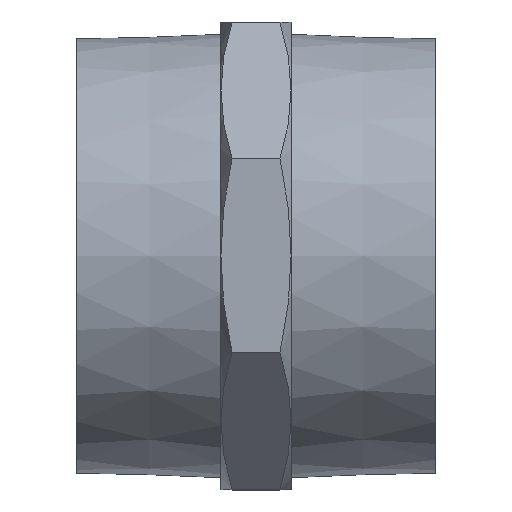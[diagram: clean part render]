
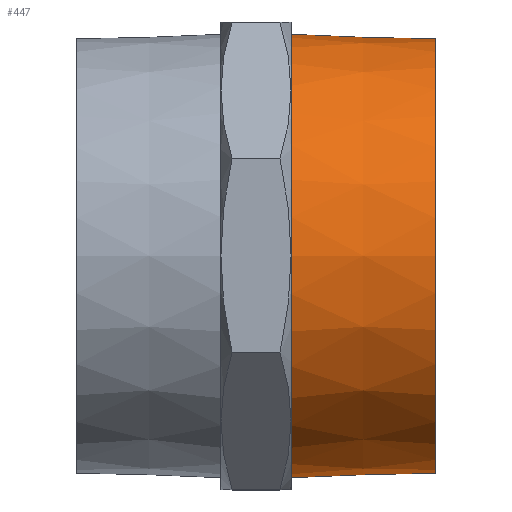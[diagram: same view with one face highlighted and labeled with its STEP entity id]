
A CAD part, top view. The second image highlights one B-rep face of the part: STEP entity #447.
In plain terms, the highlighted conical face has half-angle 1.79 degrees and reference radius 56.877 mm.
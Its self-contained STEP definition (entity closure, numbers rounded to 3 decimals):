
#47=CONICAL_SURFACE('',#502,56.878,0.031);
#83=FACE_OUTER_BOUND('',#115,.T.);
#115=EDGE_LOOP('',(#313,#314,#315,#316,#317,#318));
#148=LINE('',#694,#159);
#159=VECTOR('',#570,56.878);
#171=CIRCLE('',#500,55.721);
#172=CIRCLE('',#501,55.721);
#173=CIRCLE('',#503,56.878);
#174=CIRCLE('',#504,56.878);
#197=VERTEX_POINT('',#688);
#198=VERTEX_POINT('',#689);
#199=VERTEX_POINT('',#693);
#200=VERTEX_POINT('',#695);
#240=EDGE_CURVE('',#197,#198,#171,.T.);
#241=EDGE_CURVE('',#198,#197,#172,.T.);
#242=EDGE_CURVE('',#198,#199,#148,.T.);
#243=EDGE_CURVE('',#200,#199,#173,.T.);
#244=EDGE_CURVE('',#199,#200,#174,.T.);
#313=ORIENTED_EDGE('',*,*,#240,.F.);
#314=ORIENTED_EDGE('',*,*,#241,.F.);
#315=ORIENTED_EDGE('',*,*,#242,.T.);
#316=ORIENTED_EDGE('',*,*,#243,.F.);
#317=ORIENTED_EDGE('',*,*,#244,.F.);
#318=ORIENTED_EDGE('',*,*,#242,.F.);
#447=ADVANCED_FACE('',(#83),#47,.T.);
#500=AXIS2_PLACEMENT_3D('',#690,#564,#565);
#501=AXIS2_PLACEMENT_3D('',#691,#566,#567);
#502=AXIS2_PLACEMENT_3D('',#692,#568,#569);
#503=AXIS2_PLACEMENT_3D('',#696,#571,#572);
#504=AXIS2_PLACEMENT_3D('',#697,#573,#574);
#564=DIRECTION('center_axis',(1.,0.,0.));
#565=DIRECTION('ref_axis',(0.,0.,-1.));
#566=DIRECTION('center_axis',(1.,0.,0.));
#567=DIRECTION('ref_axis',(0.,0.,-1.));
#568=DIRECTION('center_axis',(-1.,0.,0.));
#569=DIRECTION('ref_axis',(0.,0.,-1.));
#570=DIRECTION('',(-1.,0.,0.031));
#571=DIRECTION('center_axis',(-1.,0.,0.));
#572=DIRECTION('ref_axis',(0.,0.,-1.));
#573=DIRECTION('center_axis',(-1.,0.,0.));
#574=DIRECTION('ref_axis',(0.,0.,-1.));
#688=CARTESIAN_POINT('',(46.,0.,-55.721));
#689=CARTESIAN_POINT('',(46.,0.,55.721));
#690=CARTESIAN_POINT('Origin',(46.,0.,0.));
#691=CARTESIAN_POINT('Origin',(46.,0.,0.));
#692=CARTESIAN_POINT('Origin',(9.,0.,0.));
#693=CARTESIAN_POINT('',(9.,0.,56.877));
#694=CARTESIAN_POINT('',(9.,0.,56.877));
#695=CARTESIAN_POINT('',(9.,0.,-56.878));
#696=CARTESIAN_POINT('Origin',(9.,0.,0.));
#697=CARTESIAN_POINT('Origin',(9.,0.,0.));
